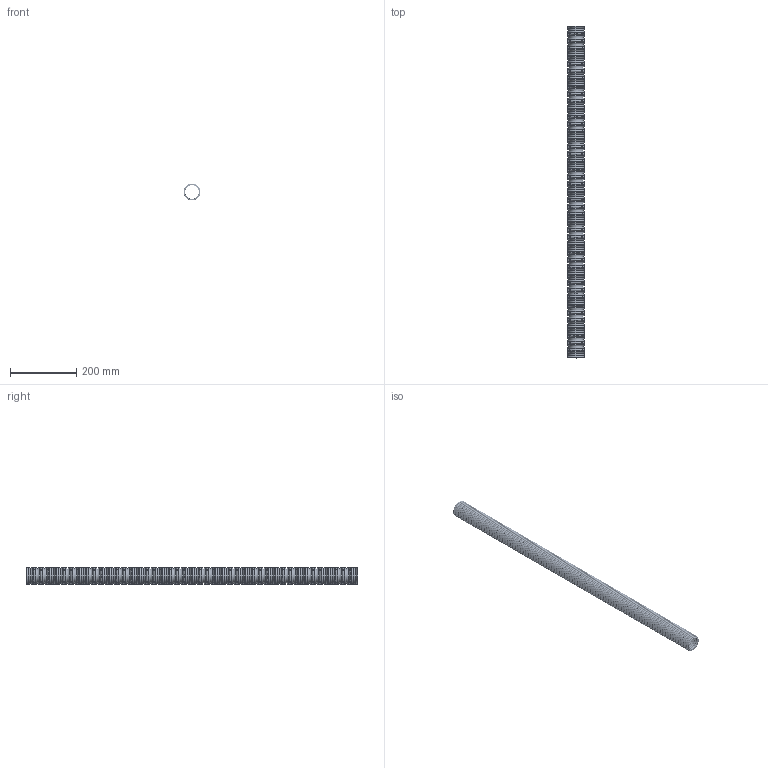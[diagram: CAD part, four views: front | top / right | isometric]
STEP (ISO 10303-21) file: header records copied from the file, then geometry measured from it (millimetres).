
FILE_DESCRIPTION( ( 'Unknown' ), '1' );
FILE_NAME( 'X:/Daten ( aktueller Bestand )/Projekte und Zeichnungen/Solid Edge/STP-Dateien/Verbindungsbauteile/1976.stp', 'Unknown', ( 'Unknown' ), ( 'Unknown' ), 'PSStep 14.0', 'Unknown', ' ' );
FILE_SCHEMA( ( 'AUTOMOTIVE_DESIGN { 1 0 10303 214 1 1 1 1 }' ) );
Length unit declared in the file: millimetre
Products named in the file (1): 1
Bounding box: 50.99 x 1000 x 50.99 mm (x, y, z)
Volume: 57779.2 mm3; surface area: 577842.9 mm2
Topology: 1 solids, 1 shells, 1156 faces, 1735 edges, 1157 vertices
Faces by surface type: plane 578, torus 578
Entity records: 32392 total; most frequent: DIRECTION 4626, CARTESIAN_POINT 3469, AXIS2_PLACEMENT_3D 2313, EDGE_LOOP 2312, ORIENTED_EDGE 2312, FACE_OUTER_BOUND 1734, STYLED_ITEM 1156, PRESENTATION_STYLE_ASSIGNMENT 1156
